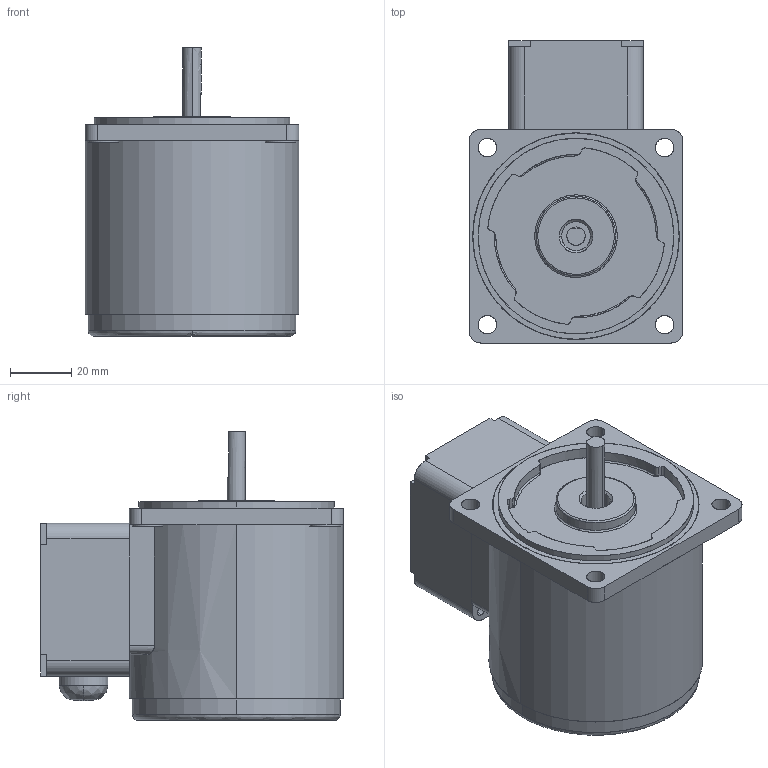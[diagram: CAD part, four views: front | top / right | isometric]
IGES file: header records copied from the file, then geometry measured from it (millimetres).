
Start section: SolidWorks IGES file using analytic representation for surfaces
Bounding box: 70 x 99 x 94.5 mm (x, y, z)
Surface area: 61316.9 mm2 (no closed solid volume)
Topology: 0 solids, 0 shells, 187 faces, 3486 edges, 3486 vertices
Faces by surface type: revolution 96, bspline 91
